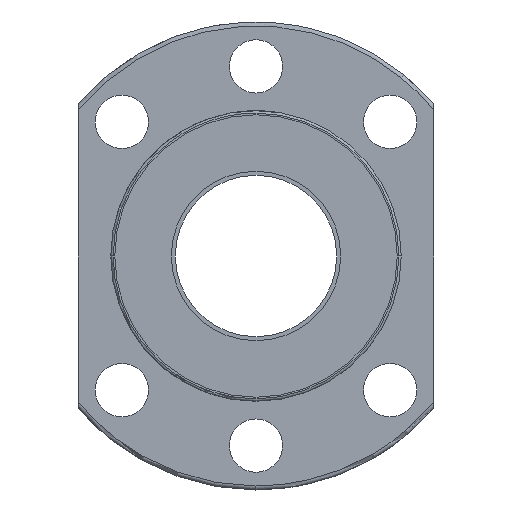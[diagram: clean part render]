
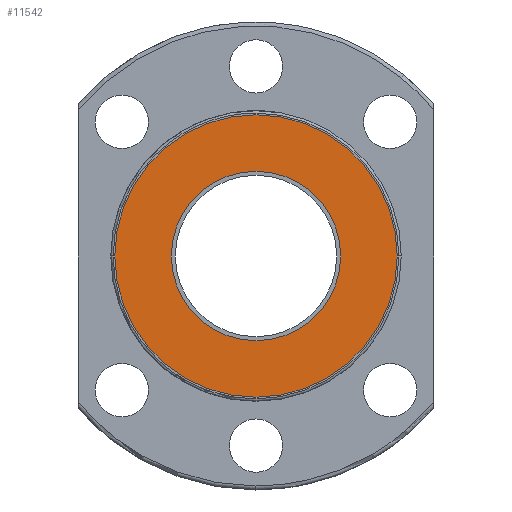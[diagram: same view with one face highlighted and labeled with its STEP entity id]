
A CAD part, left-side view. The second image highlights one B-rep face of the part: STEP entity #11542.
In plain terms, the highlighted planar face has unit normal (-1, 0, 0).
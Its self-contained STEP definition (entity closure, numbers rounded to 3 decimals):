
#153 = ORIENTED_EDGE ( 'NONE', *, *, #9167, .T. ) ;
#476 = FACE_OUTER_BOUND ( 'NONE', #2292, .T. ) ;
#576 = VERTEX_POINT ( 'NONE', #4283 ) ;
#593 = DIRECTION ( 'NONE',  ( -1., 0., 0. ) ) ;
#1035 = AXIS2_PLACEMENT_3D ( 'NONE', #6509, #1045, #10370 ) ;
#1045 = DIRECTION ( 'NONE',  ( 1., 0., 0. ) ) ;
#2198 = AXIS2_PLACEMENT_3D ( 'NONE', #6609, #4608, #9429 ) ;
#2214 = ORIENTED_EDGE ( 'NONE', *, *, #6838, .F. ) ;
#2292 = EDGE_LOOP ( 'NONE', ( #2214, #11141 ) ) ;
#2593 = CIRCLE ( 'NONE', #5768, 10.5 ) ;
#2717 = VERTEX_POINT ( 'NONE', #11113 ) ;
#2806 = CARTESIAN_POINT ( 'NONE',  ( -74.089, 0., 0. ) ) ;
#2881 = VERTEX_POINT ( 'NONE', #3324 ) ;
#3324 = CARTESIAN_POINT ( 'NONE',  ( -74.089, 0., -17.5 ) ) ;
#3488 = DIRECTION ( 'NONE',  ( 0., 0., 1. ) ) ;
#4217 = CARTESIAN_POINT ( 'NONE',  ( -74.089, 0., 17.5 ) ) ;
#4283 = CARTESIAN_POINT ( 'NONE',  ( -74.089, 0., -10.5 ) ) ;
#4608 = DIRECTION ( 'NONE',  ( 1., 0., 0. ) ) ;
#5160 = EDGE_CURVE ( 'NONE', #2717, #576, #2593, .T. ) ;
#5225 = EDGE_CURVE ( 'NONE', #8294, #2881, #7749, .T. ) ;
#5228 = PLANE ( 'NONE',  #10508 ) ;
#5768 = AXIS2_PLACEMENT_3D ( 'NONE', #2806, #11317, #10177 ) ;
#6359 = CIRCLE ( 'NONE', #1035, 17.5 ) ;
#6509 = CARTESIAN_POINT ( 'NONE',  ( -74.089, 0., 0. ) ) ;
#6609 = CARTESIAN_POINT ( 'NONE',  ( -74.089, 0., 0. ) ) ;
#6785 = AXIS2_PLACEMENT_3D ( 'NONE', #11734, #11792, #11855 ) ;
#6838 = EDGE_CURVE ( 'NONE', #2881, #8294, #6359, .T. ) ;
#7499 = ORIENTED_EDGE ( 'NONE', *, *, #5160, .T. ) ;
#7749 = CIRCLE ( 'NONE', #2198, 17.5 ) ;
#8294 = VERTEX_POINT ( 'NONE', #4217 ) ;
#8743 = EDGE_LOOP ( 'NONE', ( #153, #7499 ) ) ;
#9167 = EDGE_CURVE ( 'NONE', #576, #2717, #12065, .T. ) ;
#9429 = DIRECTION ( 'NONE',  ( 0., 0., -1. ) ) ;
#10177 = DIRECTION ( 'NONE',  ( 0., 0., -1. ) ) ;
#10370 = DIRECTION ( 'NONE',  ( 0., 0., -1. ) ) ;
#10508 = AXIS2_PLACEMENT_3D ( 'NONE', #10837, #593, #3488 ) ;
#10837 = CARTESIAN_POINT ( 'NONE',  ( -74.089, 14., 0. ) ) ;
#10951 = FACE_BOUND ( 'NONE', #8743, .T. ) ;
#11113 = CARTESIAN_POINT ( 'NONE',  ( -74.089, 0., 10.5 ) ) ;
#11141 = ORIENTED_EDGE ( 'NONE', *, *, #5225, .F. ) ;
#11317 = DIRECTION ( 'NONE',  ( 1., 0., 0. ) ) ;
#11542 = ADVANCED_FACE ( 'NONE', ( #10951, #476 ), #5228, .T. ) ;
#11734 = CARTESIAN_POINT ( 'NONE',  ( -74.089, 0., 0. ) ) ;
#11792 = DIRECTION ( 'NONE',  ( 1., 0., 0. ) ) ;
#11855 = DIRECTION ( 'NONE',  ( 0., 0., -1. ) ) ;
#12065 = CIRCLE ( 'NONE', #6785, 10.5 ) ;
